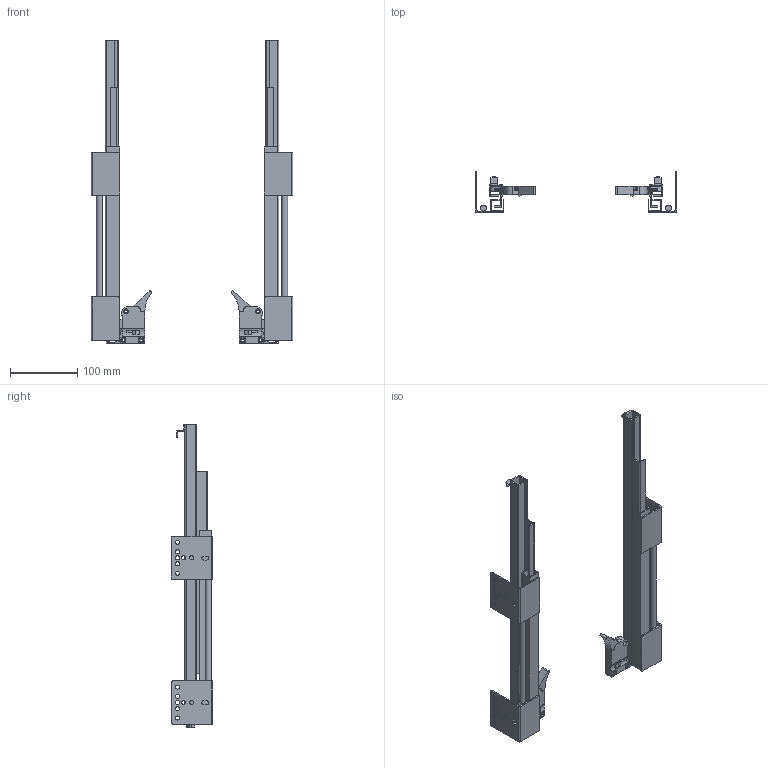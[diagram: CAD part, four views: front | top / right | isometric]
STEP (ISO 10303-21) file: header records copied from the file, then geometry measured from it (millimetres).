
FILE_DESCRIPTION(/* description */ (''),/* implementation_level */ '2;1');
FILE_NAME(/* name */ 'C:\Users\dmitruk\Documents\WORK\НАПРАВЛЯЮЩИЕ\Скрытого монтажа\SLIM SLIDE Направляющие скрытого монтажа полного выдвижения (16 мм)\SLIM SLIDE Направляющие скрытого монтажа полного выдвижения (16 мм)-450.stp',/* time_stamp */ '2022-04-22T11:22:02+03:00',/* author */ ('dmitruk'),/* organization */ (''),/* preprocessor_version */ 'ST-DEVELOPER v16.5',/* originating_system */ 'Autodesk Inventor 2017',/* authorisation */ '');
FILE_SCHEMA (('AUTOMOTIVE_DESIGN { 1 0 10303 214 3 1 1 }'));
Length unit declared in the file: millimetre
Products named in the file (9): SLIM SLIDE Направляющие \X2\0441
043A0440044B0442043E0433043E\X0\ монтажа 
полного \X2\0432044B04340432043804360435043D
0438044F\X0\ (16 мм); Направляющие \X2\0441043A
0440044B0442043E0433043E\X0\ монтажа \X2\043F
043E043B043D043E0433043E\X0\ \X2\0432044B04340432043804360435043D0438044F
\X0\ slim CR slim(18 mm); Направляющие \X2\0441043A
0440044B0442043E0433043E\X0\ монтажа \X2\043F
043E043B043D043E0433043E\X0\ \X2\0432044B04340432043804360435043D0438044F
\X0\ slim DR slim; Направляющие \X2\0441043A
0440044B0442043E0433043E\X0\ монтажа \X2\043F
043E043B043D043E0433043E\X0\ \X2\0432044B04340432043804360435043D0438044F
\X0\ slim DW slim slide; Крепление \X2\0434043B
044F\X0\ полного SLIM R; Направляющие \X2\0441043A
0440044B0442043E0433043E\X0\ монтажа \X2\043F
043E043B043D043E0433043E\X0\ \X2\0432044B04340432043804360435043D0438044F
\X0\ slim CL slim(18 mm); Крепление \X2\0434043B
044F\X0\ полного SLIM L; Направляющие \X2\0441043A
0440044B0442043E0433043E\X0\ монтажа \X2\043F
043E043B043D043E0433043E\X0\ \X2\0432044B04340432043804360435043D0438044F
\X0\ slim DW slim slide_1; Направляющие \X2\0441043A
0440044B0442043E0433043E\X0\ монтажа \X2\043F
043E043B043D043E0433043E\X0\ \X2\0432044B04340432043804360435043D0438044F
\X0\ slim DL slim
Assembly tree (8 placements, depth 2):
  SLIM SLIDE Направляющие \X2\0441
043A0440044B0442043E0433043E\X0\ монтажа 
полного \X2\0432044B04340432043804360435043D
0438044F\X0\ (16 мм)
    Направляющие \X2\0441043A
0440044B0442043E0433043E\X0\ монтажа \X2\043F
043E043B043D043E0433043E\X0\ \X2\0432044B04340432043804360435043D0438044F
\X0\ slim CR slim(18 mm)
    Направляющие \X2\0441043A
0440044B0442043E0433043E\X0\ монтажа \X2\043F
043E043B043D043E0433043E\X0\ \X2\0432044B04340432043804360435043D0438044F
\X0\ slim DR slim
    Направляющие \X2\0441043A
0440044B0442043E0433043E\X0\ монтажа \X2\043F
043E043B043D043E0433043E\X0\ \X2\0432044B04340432043804360435043D0438044F
\X0\ slim DW slim slide
    Крепление \X2\0434043B
044F\X0\ полного SLIM R
    Направляющие \X2\0441043A
0440044B0442043E0433043E\X0\ монтажа \X2\043F
043E043B043D043E0433043E\X0\ \X2\0432044B04340432043804360435043D0438044F
\X0\ slim CL slim(18 mm)
    Крепление \X2\0434043B
044F\X0\ полного SLIM L
    Направляющие \X2\0441043A
0440044B0442043E0433043E\X0\ монтажа \X2\043F
043E043B043D043E0433043E\X0\ \X2\0432044B04340432043804360435043D0438044F
\X0\ slim DW slim slide_1
    Направляющие \X2\0441043A
0440044B0442043E0433043E\X0\ монтажа \X2\043F
043E043B043D043E0433043E\X0\ \X2\0432044B04340432043804360435043D0438044F
\X0\ slim DL slim
Bounding box: 300 x 61 x 450 mm (x, y, z)
Volume: 305097.6 mm3; surface area: 313761.2 mm2
Topology: 16 solids, 16 shells, 520 faces, 1468 edges, 972 vertices
Faces by surface type: plane 368, cylinder 148, cone 4
Full cylindrical faces by diameter (mm): 4 x10, 6 x28, 7 x2, 9.002 x2
Entity records: 16757 total; most frequent: CARTESIAN_POINT 2895, DIRECTION 2766, ORIENTED_EDGE 2764, EDGE_CURVE 1382, LINE 1056, VECTOR 1056, VERTEX_POINT 932, AXIS2_PLACEMENT_3D 855
